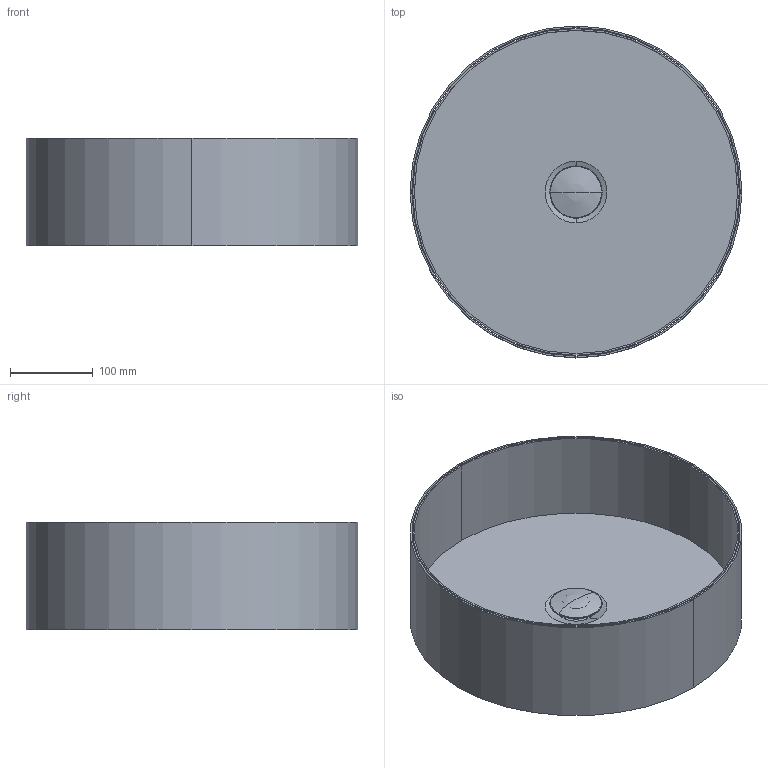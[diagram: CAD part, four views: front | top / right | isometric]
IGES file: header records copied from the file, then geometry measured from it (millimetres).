
Start section:  PTC IGES file: 69330.igs
Global section: file name: 69330.igs; native system: Creo Parametric by PTC Inc.; preprocessor: 2022014; author: carloff; organization: Unknown; date: 20241017.134332; units: millimetre
Bounding box: 400 x 400 x 130 mm (x, y, z)
Surface area: 862885.8 mm2 (no closed solid volume)
Topology: 0 solids, 0 shells, 399 faces, 2131 edges, 2128 vertices
Faces by surface type: revolution 149, bspline 148, extrusion 102
